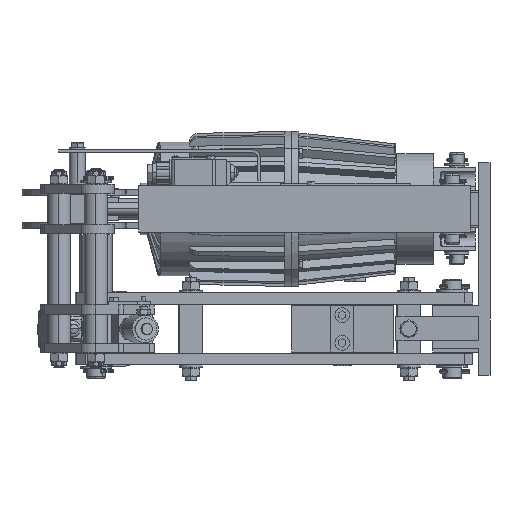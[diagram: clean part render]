
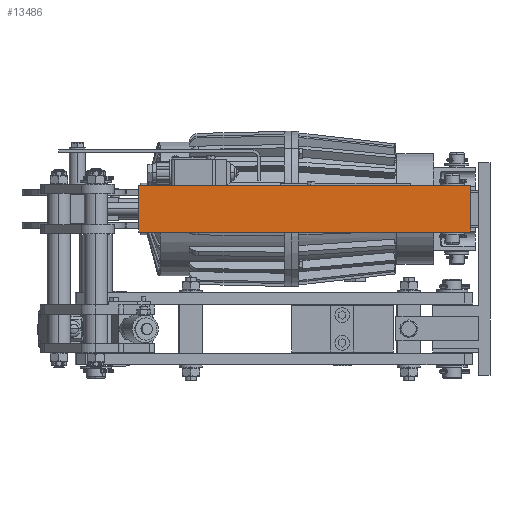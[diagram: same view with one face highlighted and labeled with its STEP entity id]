
A CAD part, left-side view. The second image highlights one B-rep face of the part: STEP entity #13486.
In plain terms, the highlighted planar face has unit normal (-1, 0, 0).
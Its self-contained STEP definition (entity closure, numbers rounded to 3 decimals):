
#12179=DIRECTION('',(0.,0.,-1.));
#12180=VECTOR('',#12179,50.);
#12181=CARTESIAN_POINT('',(475.267,664.646,119.996));
#12182=LINE('',#12181,#12180);
#12186=DIRECTION('',(0.,1.,0.));
#12187=VECTOR('',#12186,360.);
#12188=CARTESIAN_POINT('',(475.267,664.646,69.996));
#12189=LINE('',#12188,#12187);
#12193=DIRECTION('',(0.,0.,1.));
#12194=VECTOR('',#12193,50.);
#12195=CARTESIAN_POINT('',(475.267,1024.646,69.996));
#12196=LINE('',#12195,#12194);
#12207=DIRECTION('',(0.,1.,0.));
#12208=VECTOR('',#12207,360.);
#12209=CARTESIAN_POINT('',(475.267,664.646,119.996));
#12210=LINE('',#12209,#12208);
#12755=CARTESIAN_POINT('',(475.267,1024.646,69.996));
#12757=VERTEX_POINT('',#12755);
#12760=CARTESIAN_POINT('',(475.267,1024.646,119.996));
#12761=VERTEX_POINT('',#12760);
#12767=CARTESIAN_POINT('',(475.267,664.646,69.996));
#12769=VERTEX_POINT('',#12767);
#12770=CARTESIAN_POINT('',(475.267,664.646,119.996));
#12771=VERTEX_POINT('',#12770);
#13474=CARTESIAN_POINT('',(475.267,844.646,94.996));
#13475=DIRECTION('',(1.,0.,0.));
#13476=DIRECTION('',(0.,-1.,0.));
#13477=AXIS2_PLACEMENT_3D('',#13474,#13475,#13476);
#13478=PLANE('',#13477);
#13479=ORIENTED_EDGE('',*,*,#13455,.T.);
#13480=ORIENTED_EDGE('',*,*,#13438,.T.);
#13481=ORIENTED_EDGE('',*,*,#13417,.T.);
#13483=ORIENTED_EDGE('',*,*,#13482,.F.);
#13484=EDGE_LOOP('',(#13479,#13480,#13481,#13483));
#13485=FACE_OUTER_BOUND('',#13484,.F.);
#13486=ADVANCED_FACE('',(#13485),#13478,.F.);
#13417=EDGE_CURVE('',#12757,#12761,#12196,.T.);
#13438=EDGE_CURVE('',#12769,#12757,#12189,.T.);
#13455=EDGE_CURVE('',#12771,#12769,#12182,.T.);
#13482=EDGE_CURVE('',#12771,#12761,#12210,.T.);
